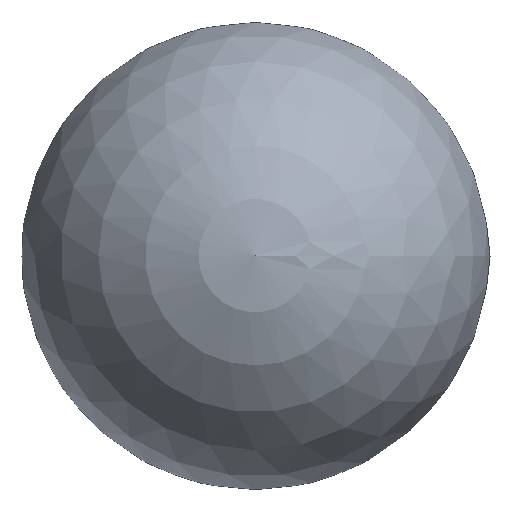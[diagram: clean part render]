
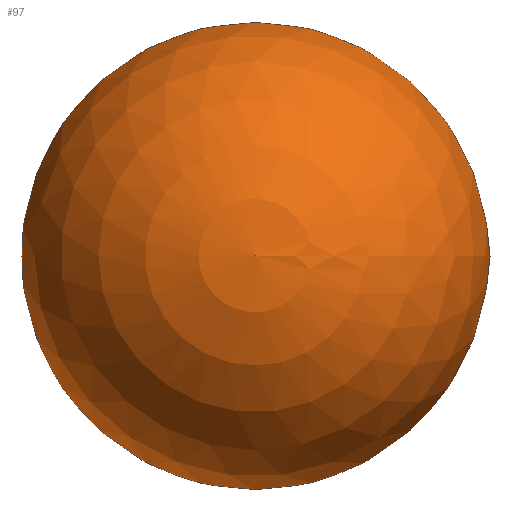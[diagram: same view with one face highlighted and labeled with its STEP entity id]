
A CAD part, top view. The second image highlights one B-rep face of the part: STEP entity #97.
In plain terms, the highlighted spherical face has radius 15 mm.
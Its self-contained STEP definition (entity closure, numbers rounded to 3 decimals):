
#59=CARTESIAN_POINT('',(14.872,0.,39.042));
#60=VERTEX_POINT('',#59);
#67=CARTESIAN_POINT('',(0.,0.,39.042));
#68=DIRECTION('',(1.,0.,-0.));
#69=DIRECTION('',(0.,0.,1.));
#70=AXIS2_PLACEMENT_3D('',#67,#69,#68);
#71=CIRCLE('',#70,14.872);
#72=EDGE_CURVE('',#60,#60,#71,.T.);
#79=CARTESIAN_POINT('',(0.,0.,41.));
#80=DIRECTION('',(1.,0.,0.));
#81=DIRECTION('',(0.,0.,1.));
#82=AXIS2_PLACEMENT_3D('',#79,#81,#80);
#83=SPHERICAL_SURFACE('',#82,15.);
#84=CARTESIAN_POINT('',(0.,0.,56.));
#85=VERTEX_POINT('',#84);
#86=CARTESIAN_POINT('',(0.,0.,41.));
#87=DIRECTION('',(0.991,0.,-0.131));
#88=DIRECTION('',(-0.,-1.,0.));
#89=AXIS2_PLACEMENT_3D('',#86,#88,#87);
#90=CIRCLE('',#89,15.);
#91=EDGE_CURVE('',#60,#85,#90,.T.);
#92=ORIENTED_EDGE('E3',*,*,#91,.T.);
#93=ORIENTED_EDGE('E7',*,*,#91,.F.);
#94=ORIENTED_EDGE('E7',*,*,#72,.F.);
#95=EDGE_LOOP('',(#92,#93,#94));
#96=FACE_OUTER_BOUND('',#95,.F.);
#97=ADVANCED_FACE('F4',(#96),#83,.T.);
